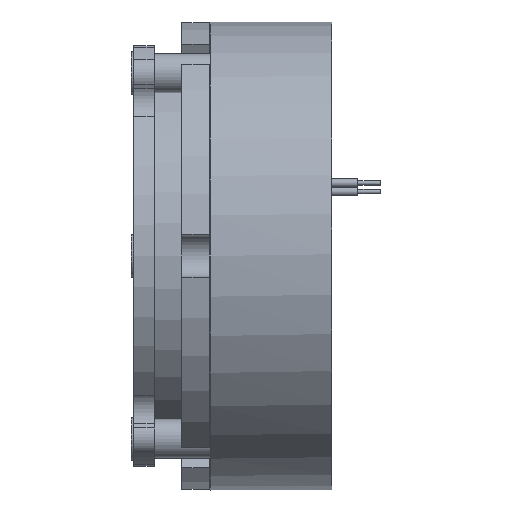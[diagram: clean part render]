
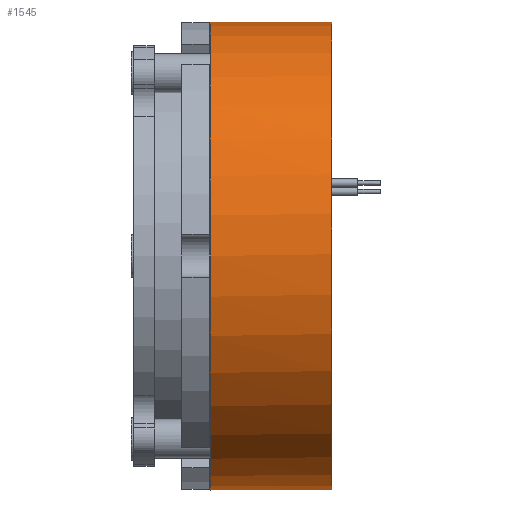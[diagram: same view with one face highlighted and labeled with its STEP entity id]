
A CAD part, front view. The second image highlights one B-rep face of the part: STEP entity #1545.
In plain terms, the highlighted cylindrical face has radius 51 mm (diameter 102 mm), a full revolution.
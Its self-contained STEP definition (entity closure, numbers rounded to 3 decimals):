
#60 = EDGE_CURVE ( 'NONE', #201, #529, #2214, .T. ) ;
#201 = VERTEX_POINT ( 'NONE', #1941 ) ;
#308 = CIRCLE ( 'NONE', #410, 51. ) ;
#317 = DIRECTION ( 'NONE',  ( 0., 0., 1. ) ) ;
#326 = VERTEX_POINT ( 'NONE', #2065 ) ;
#333 = CARTESIAN_POINT ( 'NONE',  ( 26.5, 0., 0. ) ) ;
#341 = VECTOR ( 'NONE', #1513, 1000. ) ;
#410 = AXIS2_PLACEMENT_3D ( 'NONE', #653, #2323, #892 ) ;
#424 = FACE_OUTER_BOUND ( 'NONE', #1732, .T. ) ;
#463 = ORIENTED_EDGE ( 'NONE', *, *, #670, .T. ) ;
#492 = CARTESIAN_POINT ( 'NONE',  ( 0., 46.081, 21.853 ) ) ;
#515 = CYLINDRICAL_SURFACE ( 'NONE', #3082, 51. ) ;
#529 = VERTEX_POINT ( 'NONE', #1124 ) ;
#535 = EDGE_CURVE ( 'NONE', #201, #1909, #308, .T. ) ;
#571 = DIRECTION ( 'NONE',  ( -1., 0., 0. ) ) ;
#627 = ORIENTED_EDGE ( 'NONE', *, *, #2981, .T. ) ;
#653 = CARTESIAN_POINT ( 'NONE',  ( 17.2, 0., 0. ) ) ;
#670 = EDGE_CURVE ( 'NONE', #2443, #1909, #1366, .T. ) ;
#677 = VECTOR ( 'NONE', #2137, 1000. ) ;
#798 = AXIS2_PLACEMENT_3D ( 'NONE', #1966, #1504, #1985 ) ;
#821 = DIRECTION ( 'NONE',  ( 0., 0., 1. ) ) ;
#882 = EDGE_CURVE ( 'NONE', #326, #326, #1031, .T. ) ;
#892 = DIRECTION ( 'NONE',  ( 0., 0., -1. ) ) ;
#942 = EDGE_LOOP ( 'NONE', ( #627, #463, #1812, #2531 ) ) ;
#1031 = CIRCLE ( 'NONE', #798, 51. ) ;
#1094 = CARTESIAN_POINT ( 'NONE',  ( 26.5, 46.081, 21.853 ) ) ;
#1124 = CARTESIAN_POINT ( 'NONE',  ( 26.5, 48.328, 16.29 ) ) ;
#1306 = CARTESIAN_POINT ( 'NONE',  ( 0., 48.328, 16.29 ) ) ;
#1366 = LINE ( 'NONE', #492, #677 ) ;
#1504 = DIRECTION ( 'NONE',  ( -1., 0., 0. ) ) ;
#1513 = DIRECTION ( 'NONE',  ( 1., 0., 0. ) ) ;
#1545 = ADVANCED_FACE ( 'NONE', ( #2758, #424 ), #515, .T. ) ;
#1732 = EDGE_LOOP ( 'NONE', ( #2414 ) ) ;
#1812 = ORIENTED_EDGE ( 'NONE', *, *, #535, .F. ) ;
#1909 = VERTEX_POINT ( 'NONE', #2832 ) ;
#1941 = CARTESIAN_POINT ( 'NONE',  ( 17.2, 48.328, 16.29 ) ) ;
#1966 = CARTESIAN_POINT ( 'NONE',  ( 0., 0., 0. ) ) ;
#1985 = DIRECTION ( 'NONE',  ( 0., 0., 1. ) ) ;
#2065 = CARTESIAN_POINT ( 'NONE',  ( 0., 0., 51. ) ) ;
#2137 = DIRECTION ( 'NONE',  ( -1., 0., 0. ) ) ;
#2185 = CARTESIAN_POINT ( 'NONE',  ( 0., 0., 0. ) ) ;
#2214 = LINE ( 'NONE', #1306, #341 ) ;
#2323 = DIRECTION ( 'NONE',  ( 1., 0., 0. ) ) ;
#2400 = AXIS2_PLACEMENT_3D ( 'NONE', #333, #571, #821 ) ;
#2414 = ORIENTED_EDGE ( 'NONE', *, *, #882, .F. ) ;
#2443 = VERTEX_POINT ( 'NONE', #1094 ) ;
#2459 = DIRECTION ( 'NONE',  ( -1., 0., 0. ) ) ;
#2531 = ORIENTED_EDGE ( 'NONE', *, *, #60, .T. ) ;
#2758 = FACE_OUTER_BOUND ( 'NONE', #942, .T. ) ;
#2789 = CIRCLE ( 'NONE', #2400, 51. ) ;
#2832 = CARTESIAN_POINT ( 'NONE',  ( 17.2, 46.081, 21.853 ) ) ;
#2981 = EDGE_CURVE ( 'NONE', #529, #2443, #2789, .T. ) ;
#3082 = AXIS2_PLACEMENT_3D ( 'NONE', #2185, #2459, #317 ) ;
